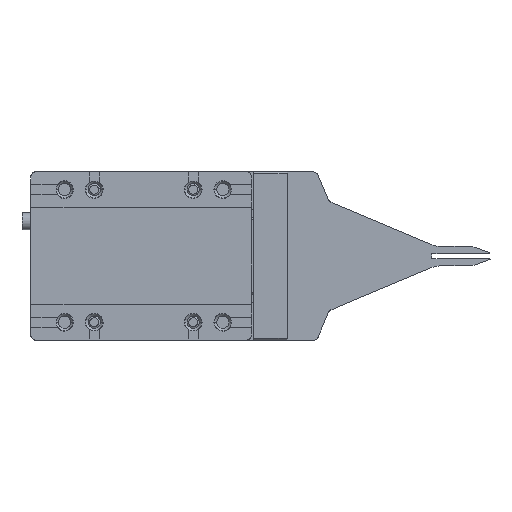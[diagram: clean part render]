
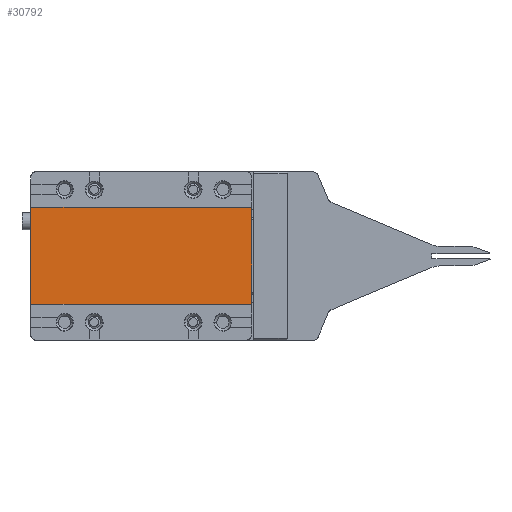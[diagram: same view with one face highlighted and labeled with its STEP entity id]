
A CAD part, top view. The second image highlights one B-rep face of the part: STEP entity #30792.
In plain terms, the highlighted planar face has unit normal (0, 0, 1).
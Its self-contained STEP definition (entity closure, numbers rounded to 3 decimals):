
#535 = ORIENTED_EDGE ( 'NONE', *, *, #28856, .T. ) ;
#1288 = PLANE ( 'NONE',  #34211 ) ;
#1382 = VECTOR ( 'NONE', #29777, 1000. ) ;
#1824 = CARTESIAN_POINT ( 'NONE',  ( 2.739, 21.772, 35.356 ) ) ;
#3401 = CARTESIAN_POINT ( 'NONE',  ( 25.039, 21.772, 35.356 ) ) ;
#4270 = DIRECTION ( 'NONE',  ( 0., 0., 1. ) ) ;
#9545 = VECTOR ( 'NONE', #35257, 1000. ) ;
#10243 = FACE_OUTER_BOUND ( 'NONE', #24228, .T. ) ;
#11921 = LINE ( 'NONE', #17468, #12014 ) ;
#12014 = VECTOR ( 'NONE', #26920, 1000. ) ;
#13007 = CARTESIAN_POINT ( 'NONE',  ( 13.839, 26.672, 35.356 ) ) ;
#14661 = CARTESIAN_POINT ( 'NONE',  ( 2.839, 21.772, 35.356 ) ) ;
#15606 = ORIENTED_EDGE ( 'NONE', *, *, #34335, .T. ) ;
#17468 = CARTESIAN_POINT ( 'NONE',  ( 2.739, 31.572, 35.356 ) ) ;
#17569 = CARTESIAN_POINT ( 'NONE',  ( 2.839, 31.572, 35.356 ) ) ;
#18585 = VERTEX_POINT ( 'NONE', #28431 ) ;
#20518 = LINE ( 'NONE', #17569, #29562 ) ;
#23337 = LINE ( 'NONE', #35443, #9545 ) ;
#23730 = VERTEX_POINT ( 'NONE', #3401 ) ;
#23771 = CARTESIAN_POINT ( 'NONE',  ( 2.739, 31.572, 35.356 ) ) ;
#23933 = EDGE_CURVE ( 'NONE', #18585, #25954, #20518, .T. ) ;
#24228 = EDGE_LOOP ( 'NONE', ( #15606, #38644, #535, #24519 ) ) ;
#24519 = ORIENTED_EDGE ( 'NONE', *, *, #23933, .T. ) ;
#25559 = LINE ( 'NONE', #14661, #1382 ) ;
#25954 = VERTEX_POINT ( 'NONE', #23771 ) ;
#26920 = DIRECTION ( 'NONE',  ( 0., -1., 0. ) ) ;
#28198 = DIRECTION ( 'NONE',  ( 1., 0., 0. ) ) ;
#28431 = CARTESIAN_POINT ( 'NONE',  ( 25.039, 31.572, 35.356 ) ) ;
#28856 = EDGE_CURVE ( 'NONE', #23730, #18585, #23337, .T. ) ;
#29562 = VECTOR ( 'NONE', #35574, 1000. ) ;
#29777 = DIRECTION ( 'NONE',  ( 1., 0., 0. ) ) ;
#30792 = ADVANCED_FACE ( 'NONE', ( #10243 ), #1288, .T. ) ;
#34211 = AXIS2_PLACEMENT_3D ( 'NONE', #13007, #4270, #28198 ) ;
#34335 = EDGE_CURVE ( 'NONE', #25954, #37502, #11921, .T. ) ;
#35257 = DIRECTION ( 'NONE',  ( 0., 1., 0. ) ) ;
#35443 = CARTESIAN_POINT ( 'NONE',  ( 25.039, 31.572, 35.356 ) ) ;
#35574 = DIRECTION ( 'NONE',  ( -1., 0., 0. ) ) ;
#36180 = EDGE_CURVE ( 'NONE', #37502, #23730, #25559, .T. ) ;
#37502 = VERTEX_POINT ( 'NONE', #1824 ) ;
#38644 = ORIENTED_EDGE ( 'NONE', *, *, #36180, .T. ) ;
